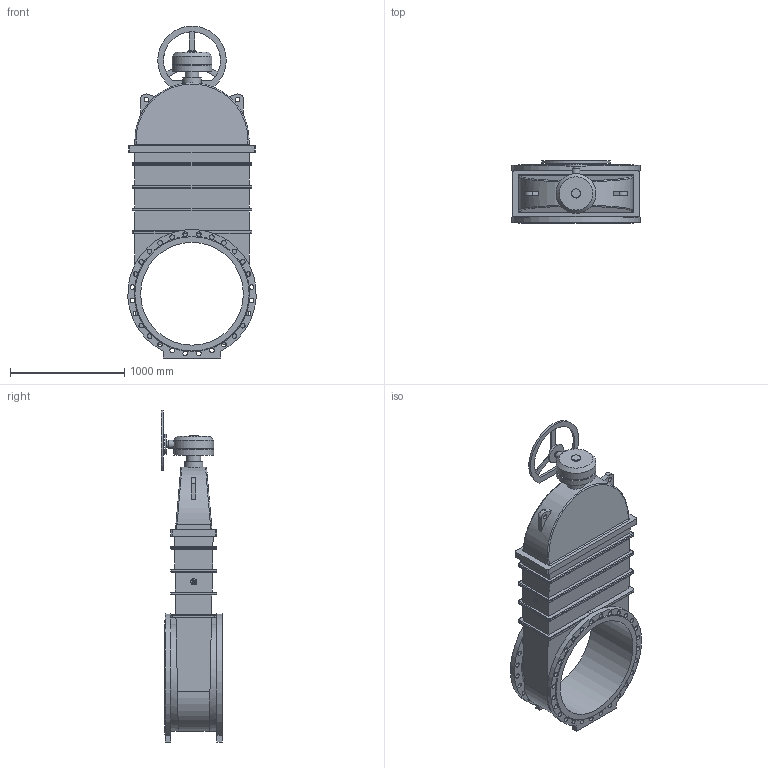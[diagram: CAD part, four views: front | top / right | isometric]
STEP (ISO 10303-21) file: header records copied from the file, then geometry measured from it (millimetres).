
FILE_DESCRIPTION(('STEP AP203'), '1');
FILE_NAME('Çàäâèæêà 47GV DN900 PN10_PN16_L510 + ðåäóêòîð ñ ìàõîâèêîì', '', ('UNSPECIFIED'), ('UNSPECIFIED'), 'ASCON STEP Converter 1.6', 'ASCON Math Kernel', '');
FILE_SCHEMA(('CONFIG_CONTROL_DESIGN'));
Length unit declared in the file: millimetre
Bounding box: 1122.05 x 540 x 2907.5 mm (x, y, z)
Volume: 540818878.7 mm3; surface area: 10134888.5 mm2
Topology: 1 solids, 1 shells, 301 faces, 921 edges, 591 vertices
Faces by surface type: cylinder 144, plane 120, bspline 34, cone 3
Full cylindrical faces by diameter (mm): 30 x1, 40 x2, 41 x56, 50 x1, 70 x1, 80 x1, 100 x1, 120 x1, 160 x1, 175 x1, 330 x1, 350 x2, 900 x1
Entity records: 18803 total; most frequent: CARTESIAN_POINT 8323, ORIENTED_EDGE 1698, DIRECTION 1618, EDGE_CURVE 849, AXIS2_PLACEMENT_3D 644, VERTEX_POINT 591, EDGE_LOOP 466, FACE_BOUND 383
